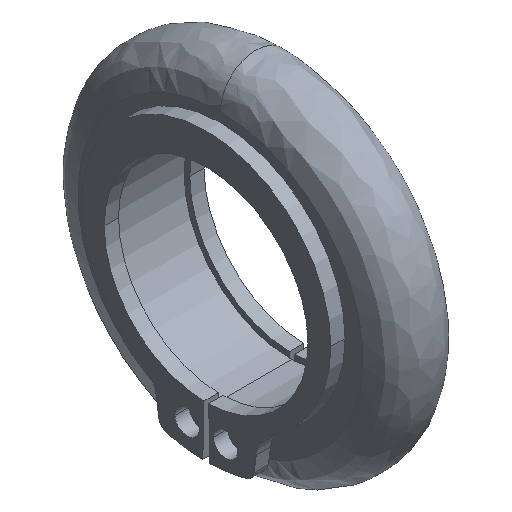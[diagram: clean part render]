
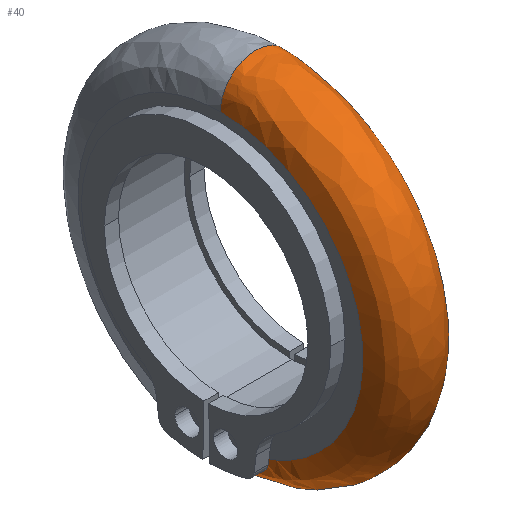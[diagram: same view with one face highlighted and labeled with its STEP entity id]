
A CAD part, isometric view. The second image highlights one B-rep face of the part: STEP entity #40.
In plain terms, the highlighted free-form (B-spline) face has degree [3, 3] with [7, 4] control points.
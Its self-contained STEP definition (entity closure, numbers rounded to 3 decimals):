
#15 = CARTESIAN_POINT ( 'NONE',  ( 0., -25., -12.5 ) ) ;
#28 = CARTESIAN_POINT ( 'NONE',  ( 0., -25., 12.5 ) ) ;
#37 = EDGE_CURVE ( 'NONE', #46, #52, #405, .T. ) ;
#40 = ADVANCED_FACE ( 'NONE', ( #297 ), #281, .T. ) ;
#41 = ORIENTED_EDGE ( 'NONE', *, *, #43, .F. ) ;
#42 = ORIENTED_EDGE ( 'NONE', *, *, #146, .T. ) ;
#43 = EDGE_CURVE ( 'NONE', #99, #47, #480, .T. ) ;
#44 = CARTESIAN_POINT ( 'NONE',  ( 2.646, -22.652, -11.326 ) ) ;
#45 = CARTESIAN_POINT ( 'NONE',  ( 2.646, 0., -11.326 ) ) ;
#46 = VERTEX_POINT ( 'NONE', #483 ) ;
#47 = VERTEX_POINT ( 'NONE', #482 ) ;
#48 = ORIENTED_EDGE ( 'NONE', *, *, #55, .T. ) ;
#52 = VERTEX_POINT ( 'NONE', #481 ) ;
#55 = EDGE_CURVE ( 'NONE', #99, #52, #457, .T. ) ;
#56 = CARTESIAN_POINT ( 'NONE',  ( 1.583, 0., 12.5 ) ) ;
#98 = CARTESIAN_POINT ( 'NONE',  ( 0., 0., 12.5 ) ) ;
#99 = VERTEX_POINT ( 'NONE', #550 ) ;
#103 = ORIENTED_EDGE ( 'NONE', *, *, #37, .F. ) ;
#119 = CARTESIAN_POINT ( 'NONE',  ( 1.583, 0., -12.5 ) ) ;
#122 = CARTESIAN_POINT ( 'NONE',  ( 1.583, -25., 12.5 ) ) ;
#146 = EDGE_CURVE ( 'NONE', #46, #47, #637, .T. ) ;
#150 = EDGE_LOOP ( 'NONE', ( #41, #48, #103, #42 ) ) ;
#173 = CARTESIAN_POINT ( 'NONE',  ( 1.583, -25., -12.5 ) ) ;
#281 =( BOUNDED_SURFACE ( )  B_SPLINE_SURFACE ( 3, 3, ( 
 ( #342, #341, #340, #339 ),
 ( #338, #337, #336, #335 ),
 ( #334, #333, #332, #331 ),
 ( #330, #15, #28, #98 ),
 ( #119, #173, #122, #56 ),
 ( #45, #44, #573, #572 ),
 ( #571, #570, #569, #568 ) ),
 .UNSPECIFIED., .F., .F., .T. ) 
 B_SPLINE_SURFACE_WITH_KNOTS ( ( 4, 3, 4 ),
 ( 4, 4 ),
 ( 0., 0.5, 1. ),
 ( 0., 1. ),
 .UNSPECIFIED. ) 
 GEOMETRIC_REPRESENTATION_ITEM ( )  RATIONAL_B_SPLINE_SURFACE ( (
 ( 1., 0.333, 0.333, 1.),
 ( 0.781, 0.26, 0.26, 0.781),
 ( 0.781, 0.26, 0.26, 0.781),
 ( 1., 0.333, 0.333, 1.),
 ( 0.781, 0.26, 0.26, 0.781),
 ( 0.781, 0.26, 0.26, 0.781),
 ( 1., 0.333, 0.333, 1.) ) ) 
 REPRESENTATION_ITEM ( '' )  SURFACE ( )  );
#287 = CARTESIAN_POINT ( 'NONE',  ( -2.5, 0., -10. ) ) ;
#288 = CARTESIAN_POINT ( 'NONE',  ( -2.5, 0., -11.477 ) ) ;
#289 = CARTESIAN_POINT ( 'NONE',  ( -1.452, 0., -12.5 ) ) ;
#290 = CARTESIAN_POINT ( 'NONE',  ( 0., 0., -12.5 ) ) ;
#291 = CARTESIAN_POINT ( 'NONE',  ( 1.452, 0., -12.5 ) ) ;
#292 = CARTESIAN_POINT ( 'NONE',  ( 2.5, 0., -11.477 ) ) ;
#293 = CARTESIAN_POINT ( 'NONE',  ( 2.5, 0., -10. ) ) ;
#297 = FACE_OUTER_BOUND ( 'NONE', #150, .T. ) ;
#330 = CARTESIAN_POINT ( 'NONE',  ( 0., 0., -12.5 ) ) ;
#331 = CARTESIAN_POINT ( 'NONE',  ( -1.583, 0., 12.5 ) ) ;
#332 = CARTESIAN_POINT ( 'NONE',  ( -1.583, -25., 12.5 ) ) ;
#333 = CARTESIAN_POINT ( 'NONE',  ( -1.583, -25., -12.5 ) ) ;
#334 = CARTESIAN_POINT ( 'NONE',  ( -1.583, 0., -12.5 ) ) ;
#335 = CARTESIAN_POINT ( 'NONE',  ( -2.646, 0., 11.326 ) ) ;
#336 = CARTESIAN_POINT ( 'NONE',  ( -2.646, -22.652, 11.326 ) ) ;
#337 = CARTESIAN_POINT ( 'NONE',  ( -2.646, -22.652, -11.326 ) ) ;
#338 = CARTESIAN_POINT ( 'NONE',  ( -2.646, 0., -11.326 ) ) ;
#339 = CARTESIAN_POINT ( 'NONE',  ( -2.488, 0., 9.75 ) ) ;
#340 = CARTESIAN_POINT ( 'NONE',  ( -2.488, -19.501, 9.75 ) ) ;
#341 = CARTESIAN_POINT ( 'NONE',  ( -2.488, -19.501, -9.75 ) ) ;
#342 = CARTESIAN_POINT ( 'NONE',  ( -2.488, 0., -9.75 ) ) ;
#405 =( BOUNDED_CURVE ( )  B_SPLINE_CURVE ( 3, ( #293, #292, #291, #290, #289, #288, #287 ),
 .UNSPECIFIED., .F., .F. ) 
 B_SPLINE_CURVE_WITH_KNOTS ( ( 4, 3, 4 ),
 ( 0.033, 0.5, 0.967 ),
 .UNSPECIFIED. ) 
 CURVE ( )  GEOMETRIC_REPRESENTATION_ITEM ( )  RATIONAL_B_SPLINE_CURVE ( ( 0.959, 0.782, 0.795, 1., 0.795, 0.782, 0.959 ) ) 
 REPRESENTATION_ITEM ( '' )  );
#452 = CARTESIAN_POINT ( 'NONE',  ( -2.5, 0., -10. ) ) ;
#453 = CARTESIAN_POINT ( 'NONE',  ( -2.5, -20., -10. ) ) ;
#454 = CARTESIAN_POINT ( 'NONE',  ( -2.5, -20., 10. ) ) ;
#455 = CARTESIAN_POINT ( 'NONE',  ( -2.5, 0., 10. ) ) ;
#457 =( BOUNDED_CURVE ( )  B_SPLINE_CURVE ( 3, ( #455, #454, #453, #452 ),
 .UNSPECIFIED., .F., .F. ) 
 B_SPLINE_CURVE_WITH_KNOTS ( ( 4, 4 ),
 ( 0., 1. ),
 .UNSPECIFIED. ) 
 CURVE ( )  GEOMETRIC_REPRESENTATION_ITEM ( )  RATIONAL_B_SPLINE_CURVE ( ( 0.959, 0.32, 0.32, 0.959 ) ) 
 REPRESENTATION_ITEM ( '' )  );
#473 = CARTESIAN_POINT ( 'NONE',  ( 2.5, 0., 10. ) ) ;
#474 = CARTESIAN_POINT ( 'NONE',  ( 2.5, 0., 11.477 ) ) ;
#475 = CARTESIAN_POINT ( 'NONE',  ( 1.452, 0., 12.5 ) ) ;
#476 = CARTESIAN_POINT ( 'NONE',  ( 0., 0., 12.5 ) ) ;
#477 = CARTESIAN_POINT ( 'NONE',  ( -1.452, 0., 12.5 ) ) ;
#478 = CARTESIAN_POINT ( 'NONE',  ( -2.5, 0., 11.477 ) ) ;
#479 = CARTESIAN_POINT ( 'NONE',  ( -2.5, 0., 10. ) ) ;
#480 =( BOUNDED_CURVE ( )  B_SPLINE_CURVE ( 3, ( #479, #478, #477, #476, #475, #474, #473 ),
 .UNSPECIFIED., .F., .F. ) 
 B_SPLINE_CURVE_WITH_KNOTS ( ( 4, 3, 4 ),
 ( 0.033, 0.5, 0.967 ),
 .UNSPECIFIED. ) 
 CURVE ( )  GEOMETRIC_REPRESENTATION_ITEM ( )  RATIONAL_B_SPLINE_CURVE ( ( 0.959, 0.782, 0.795, 1., 0.795, 0.782, 0.959 ) ) 
 REPRESENTATION_ITEM ( '' )  );
#481 = CARTESIAN_POINT ( 'NONE',  ( -2.5, 0., -10. ) ) ;
#482 = CARTESIAN_POINT ( 'NONE',  ( 2.5, 0., 10. ) ) ;
#483 = CARTESIAN_POINT ( 'NONE',  ( 2.5, 0., -10. ) ) ;
#550 = CARTESIAN_POINT ( 'NONE',  ( -2.5, 0., 10. ) ) ;
#568 = CARTESIAN_POINT ( 'NONE',  ( 2.488, 0., 9.75 ) ) ;
#569 = CARTESIAN_POINT ( 'NONE',  ( 2.488, -19.501, 9.75 ) ) ;
#570 = CARTESIAN_POINT ( 'NONE',  ( 2.488, -19.501, -9.75 ) ) ;
#571 = CARTESIAN_POINT ( 'NONE',  ( 2.488, 0., -9.75 ) ) ;
#572 = CARTESIAN_POINT ( 'NONE',  ( 2.646, 0., 11.326 ) ) ;
#573 = CARTESIAN_POINT ( 'NONE',  ( 2.646, -22.652, 11.326 ) ) ;
#637 =( BOUNDED_CURVE ( )  B_SPLINE_CURVE ( 3, ( #779, #778, #792, #791 ),
 .UNSPECIFIED., .F., .F. ) 
 B_SPLINE_CURVE_WITH_KNOTS ( ( 4, 4 ),
 ( 0., 1. ),
 .UNSPECIFIED. ) 
 CURVE ( )  GEOMETRIC_REPRESENTATION_ITEM ( )  RATIONAL_B_SPLINE_CURVE ( ( 0.959, 0.32, 0.32, 0.959 ) ) 
 REPRESENTATION_ITEM ( '' )  );
#778 = CARTESIAN_POINT ( 'NONE',  ( 2.5, -20., -10. ) ) ;
#779 = CARTESIAN_POINT ( 'NONE',  ( 2.5, 0., -10. ) ) ;
#791 = CARTESIAN_POINT ( 'NONE',  ( 2.5, 0., 10. ) ) ;
#792 = CARTESIAN_POINT ( 'NONE',  ( 2.5, -20., 10. ) ) ;
